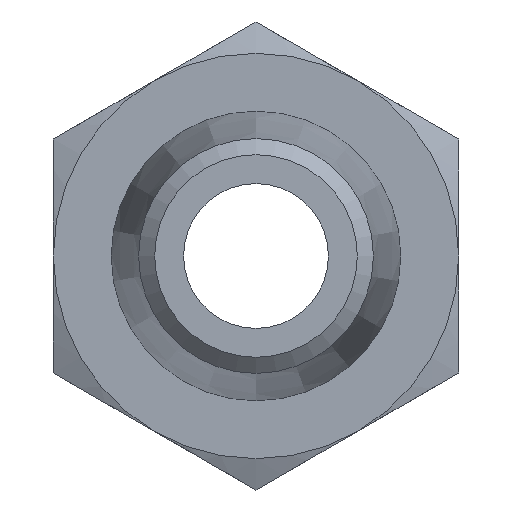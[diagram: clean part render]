
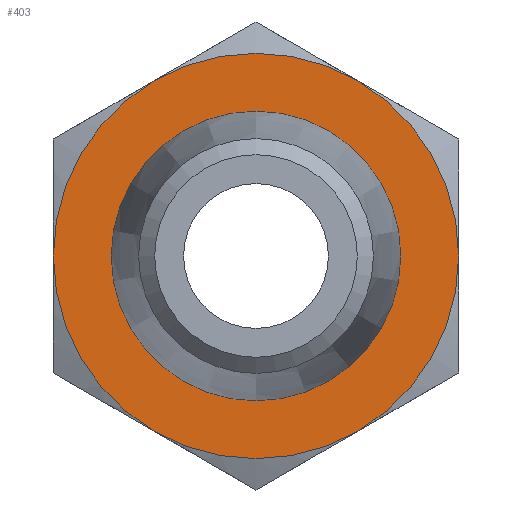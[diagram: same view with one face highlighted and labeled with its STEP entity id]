
A CAD part, front view. The second image highlights one B-rep face of the part: STEP entity #403.
In plain terms, the highlighted planar face has unit normal (0, -1, 0).
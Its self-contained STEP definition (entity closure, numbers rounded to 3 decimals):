
#42=FACE_BOUND('',#125,.T.);
#52=PLANE('',#475);
#94=FACE_OUTER_BOUND('',#124,.T.);
#124=EDGE_LOOP('',(#368,#369,#370,#371,#372,#373));
#125=EDGE_LOOP('',(#374));
#153=CIRCLE('',#436,5.);
#158=CIRCLE('',#445,7.);
#159=CIRCLE('',#447,7.);
#160=CIRCLE('',#449,7.);
#161=CIRCLE('',#451,7.);
#162=CIRCLE('',#453,7.);
#163=CIRCLE('',#455,7.);
#175=VERTEX_POINT('',#604);
#181=VERTEX_POINT('',#622);
#182=VERTEX_POINT('',#626);
#184=VERTEX_POINT('',#633);
#186=VERTEX_POINT('',#643);
#188=VERTEX_POINT('',#656);
#190=VERTEX_POINT('',#666);
#211=EDGE_CURVE('',#175,#175,#153,.T.);
#221=EDGE_CURVE('',#181,#182,#158,.T.);
#224=EDGE_CURVE('',#184,#181,#159,.T.);
#227=EDGE_CURVE('',#186,#184,#160,.T.);
#229=EDGE_CURVE('',#188,#186,#161,.T.);
#232=EDGE_CURVE('',#190,#188,#162,.T.);
#235=EDGE_CURVE('',#182,#190,#163,.T.);
#368=ORIENTED_EDGE('',*,*,#235,.T.);
#369=ORIENTED_EDGE('',*,*,#232,.T.);
#370=ORIENTED_EDGE('',*,*,#229,.T.);
#371=ORIENTED_EDGE('',*,*,#227,.T.);
#372=ORIENTED_EDGE('',*,*,#224,.T.);
#373=ORIENTED_EDGE('',*,*,#221,.T.);
#374=ORIENTED_EDGE('',*,*,#211,.T.);
#403=ADVANCED_FACE('',(#94,#42),#52,.F.);
#436=AXIS2_PLACEMENT_3D('',#605,#498,#499);
#445=AXIS2_PLACEMENT_3D('',#630,#519,#520);
#447=AXIS2_PLACEMENT_3D('',#640,#523,#524);
#449=AXIS2_PLACEMENT_3D('',#650,#527,#528);
#451=AXIS2_PLACEMENT_3D('',#657,#531,#532);
#453=AXIS2_PLACEMENT_3D('',#667,#535,#536);
#455=AXIS2_PLACEMENT_3D('',#676,#539,#540);
#475=AXIS2_PLACEMENT_3D('',#753,#585,#586);
#498=DIRECTION('center_axis',(0.,1.,0.));
#499=DIRECTION('ref_axis',(0.,0.,1.));
#519=DIRECTION('center_axis',(0.,-1.,0.));
#520=DIRECTION('ref_axis',(-1.,0.,0.));
#523=DIRECTION('center_axis',(0.,-1.,0.));
#524=DIRECTION('ref_axis',(-1.,0.,0.));
#527=DIRECTION('center_axis',(0.,-1.,0.));
#528=DIRECTION('ref_axis',(-1.,0.,0.));
#531=DIRECTION('center_axis',(0.,-1.,0.));
#532=DIRECTION('ref_axis',(-1.,0.,0.));
#535=DIRECTION('center_axis',(0.,-1.,0.));
#536=DIRECTION('ref_axis',(-1.,0.,0.));
#539=DIRECTION('center_axis',(0.,-1.,0.));
#540=DIRECTION('ref_axis',(-1.,0.,0.));
#585=DIRECTION('center_axis',(0.,1.,0.));
#586=DIRECTION('ref_axis',(0.,0.,1.));
#604=CARTESIAN_POINT('',(0.,0.,-5.));
#605=CARTESIAN_POINT('Origin',(0.,0.,0.));
#622=CARTESIAN_POINT('',(-7.,0.,0.));
#626=CARTESIAN_POINT('',(-3.5,0.,-6.062));
#630=CARTESIAN_POINT('Origin',(0.,0.,0.));
#633=CARTESIAN_POINT('',(-3.5,0.,6.062));
#640=CARTESIAN_POINT('Origin',(0.,0.,0.));
#643=CARTESIAN_POINT('',(3.5,0.,6.062));
#650=CARTESIAN_POINT('Origin',(0.,0.,0.));
#656=CARTESIAN_POINT('',(7.,0.,0.));
#657=CARTESIAN_POINT('Origin',(0.,0.,0.));
#666=CARTESIAN_POINT('',(3.5,0.,-6.062));
#667=CARTESIAN_POINT('Origin',(0.,0.,0.));
#676=CARTESIAN_POINT('Origin',(0.,0.,0.));
#753=CARTESIAN_POINT('Origin',(0.,0.,0.));
